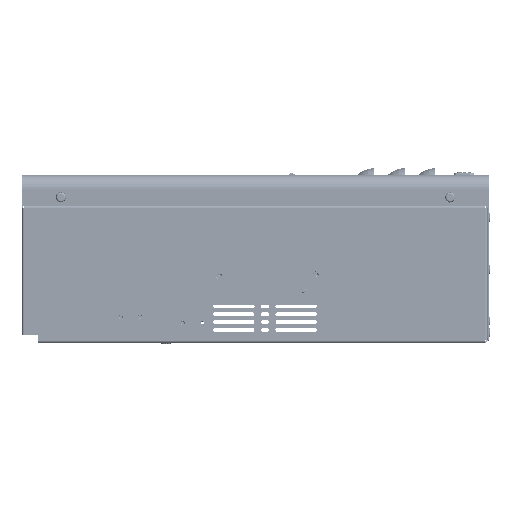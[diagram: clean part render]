
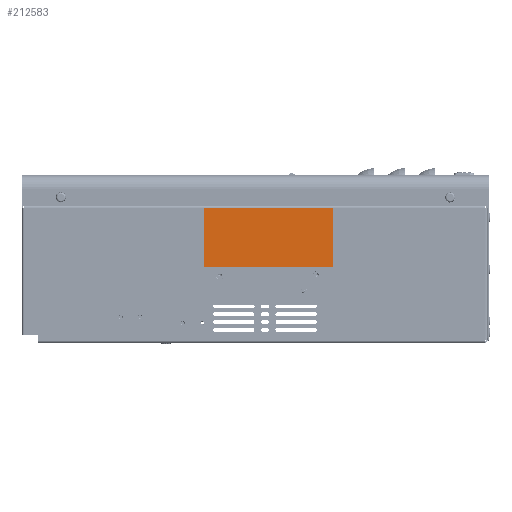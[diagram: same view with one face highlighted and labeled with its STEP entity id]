
A CAD part, left-side view. The second image highlights one B-rep face of the part: STEP entity #212583.
In plain terms, the highlighted planar face has unit normal (-1, 0, 0).
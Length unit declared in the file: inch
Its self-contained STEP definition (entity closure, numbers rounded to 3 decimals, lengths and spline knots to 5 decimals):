
#30376 = VECTOR ( 'NONE', #203830, 39.37008 ) ;
#39760 = VECTOR ( 'NONE', #206411, 39.37008 ) ;
#45033 = ORIENTED_EDGE ( 'NONE', *, *, #162411, .T. ) ;
#66508 = CARTESIAN_POINT ( 'NONE',  ( -6.335, 5.99608, 2.92941 ) ) ;
#74835 = CARTESIAN_POINT ( 'NONE',  ( -6.335, 10.99608, 2.92941 ) ) ;
#89416 = EDGE_CURVE ( 'NONE', #225747, #265847, #111547, .T. ) ;
#91819 = VECTOR ( 'NONE', #281812, 39.37008 ) ;
#97188 = VERTEX_POINT ( 'NONE', #109047 ) ;
#108868 = VECTOR ( 'NONE', #232038, 39.37008 ) ;
#109047 = CARTESIAN_POINT ( 'NONE',  ( -6.335, 10.99608, 5.17941 ) ) ;
#111547 = LINE ( 'NONE', #74835, #39760 ) ;
#113341 = ORIENTED_EDGE ( 'NONE', *, *, #187919, .T. ) ;
#114632 = FACE_OUTER_BOUND ( 'NONE', #269475, .T. ) ;
#123552 = CARTESIAN_POINT ( 'NONE',  ( -6.335, 0., 0. ) ) ;
#144364 = PLANE ( 'NONE',  #179889 ) ;
#145310 = DIRECTION ( 'NONE',  ( 0., 0., 1. ) ) ;
#156918 = ORIENTED_EDGE ( 'NONE', *, *, #89416, .T. ) ;
#162411 = EDGE_CURVE ( 'NONE', #97188, #225747, #224724, .T. ) ;
#173811 = EDGE_CURVE ( 'NONE', #265847, #260991, #204393, .T. ) ;
#179889 = AXIS2_PLACEMENT_3D ( 'NONE', #123552, #275670, #145310 ) ;
#181942 = CARTESIAN_POINT ( 'NONE',  ( -6.335, 5.99608, 2.92941 ) ) ;
#187919 = EDGE_CURVE ( 'NONE', #260991, #97188, #265665, .T. ) ;
#203830 = DIRECTION ( 'NONE',  ( 0., 0., 1. ) ) ;
#204393 = LINE ( 'NONE', #181942, #30376 ) ;
#206411 = DIRECTION ( 'NONE',  ( 0., -1., 0. ) ) ;
#209266 = CARTESIAN_POINT ( 'NONE',  ( -6.335, 5.99608, 5.17941 ) ) ;
#210274 = CARTESIAN_POINT ( 'NONE',  ( -6.335, 10.99608, 2.92941 ) ) ;
#212583 = ADVANCED_FACE ( 'NONE', ( #114632 ), #144364, .T. ) ;
#216223 = CARTESIAN_POINT ( 'NONE',  ( -6.335, 10.99608, 5.17941 ) ) ;
#219963 = CARTESIAN_POINT ( 'NONE',  ( -6.335, 10.99608, 2.92941 ) ) ;
#224724 = LINE ( 'NONE', #210274, #108868 ) ;
#225747 = VERTEX_POINT ( 'NONE', #219963 ) ;
#232038 = DIRECTION ( 'NONE',  ( 0., 0., -1. ) ) ;
#247211 = ORIENTED_EDGE ( 'NONE', *, *, #173811, .T. ) ;
#260991 = VERTEX_POINT ( 'NONE', #209266 ) ;
#265665 = LINE ( 'NONE', #216223, #91819 ) ;
#265847 = VERTEX_POINT ( 'NONE', #66508 ) ;
#269475 = EDGE_LOOP ( 'NONE', ( #156918, #247211, #113341, #45033 ) ) ;
#275670 = DIRECTION ( 'NONE',  ( -1., 0., 0. ) ) ;
#281812 = DIRECTION ( 'NONE',  ( 0., 1., 0. ) ) ;
